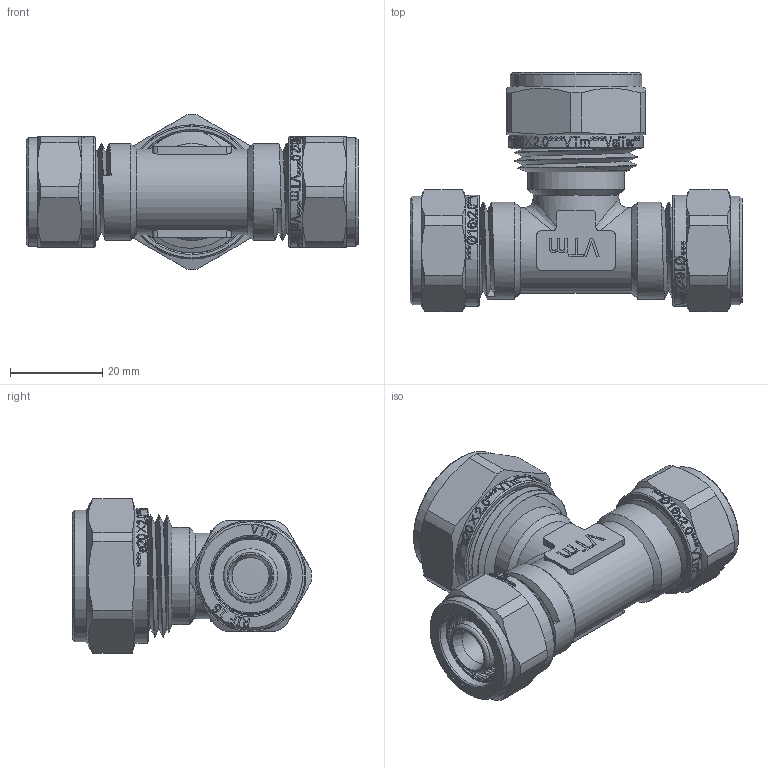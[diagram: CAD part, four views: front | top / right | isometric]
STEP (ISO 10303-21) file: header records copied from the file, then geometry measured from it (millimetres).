
FILE_DESCRIPTION(/* description */ (''),/* implementation_level */ '2;1');
FILE_NAME(/* name */ 'E:\Артём\00000\Работа удаленка\Обжимные фитинги\VTm.331.N.162016.stp',/* time_stamp */ '2020-06-30T12:56:04+03:00',/* author */ ('BeN_GaN'),/* organization */ (''),/* preprocessor_version */ 'ST-DEVELOPER v18',/* originating_system */ 'Autodesk Inventor 2020',/* authorisation */ '');
FILE_SCHEMA (('AUTOMOTIVE_DESIGN { 1 0 10303 214 3 1 1 }'));
Length unit declared in the file: millimetre
Products named in the file (1): VTm.331.N.162016
Bounding box: 71.8 x 51.69 x 33.43 mm (x, y, z)
Volume: 32371.8 mm3; surface area: 21072.1 mm2
Topology: 1 solids, 3 shells, 2009 faces, 5624 edges, 3785 vertices
Faces by surface type: bspline 1058, plane 579, cylinder 245, torus 72, cone 55
Full cylindrical faces by diameter (mm): 8 x2, 9.4 x4, 11.5 x1, 11.75 x8, 13.4 x2, 15.75 x4, 16 x8, 16.2 x2, 16.6 x10, 17 x2, 17.4 x6, 18.5 x2, 18.6 x5, 19.986 x4, 20.2 x1, 20.728 x5, 21 x4, 22.8 x4, 23.201 x1, 23.5 x2, 24 x2, 24.2 x3, 26.4 x1, 28.5 x1, 29 x1
Entity records: 85999 total; most frequent: CARTESIAN_POINT 40890, ORIENTED_EDGE 11254, DIRECTION 6157, EDGE_CURVE 5627, VERTEX_POINT 3788, LINE 2413, VECTOR 2413, B_SPLINE_CURVE_WITH_KNOTS 2232
